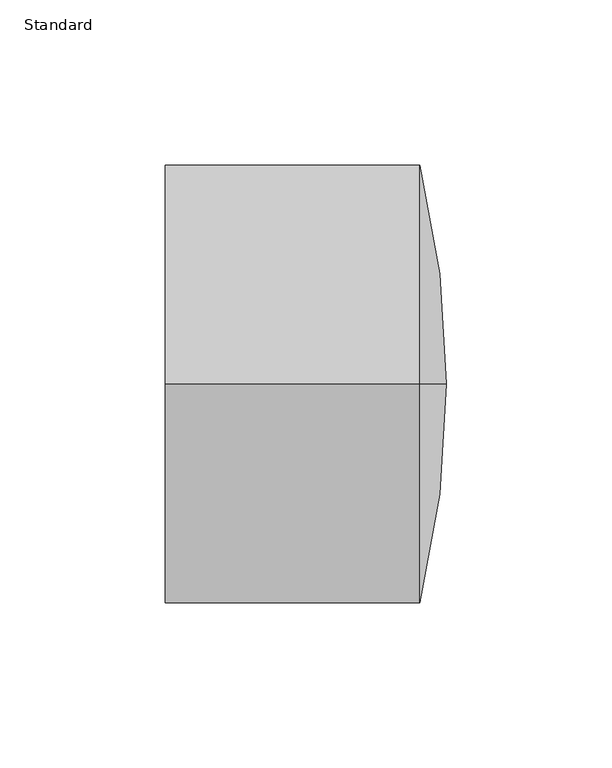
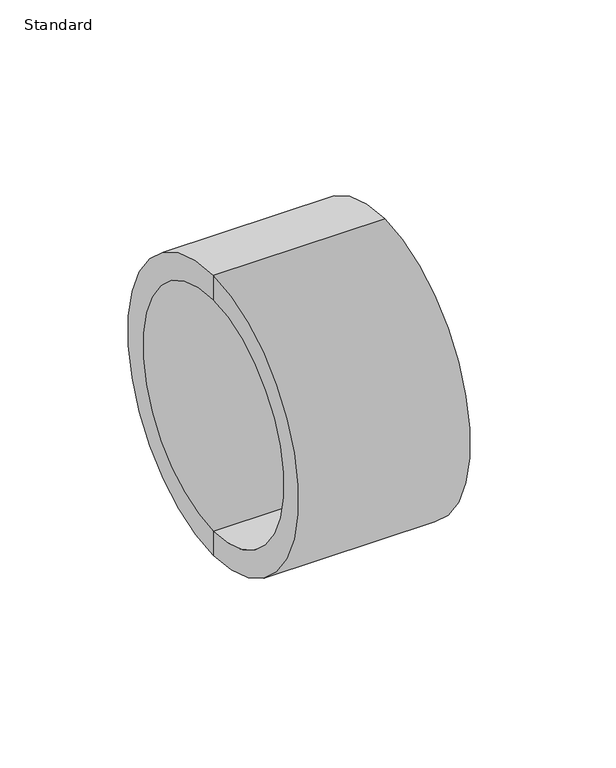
"""IFC4 building model written with IfcOpenShell, lengths in millimetres: pipe fitting geometry, Durapipe_PipeFitting_PVC_Cap : Standard."""

from ifc_helpers import new_model, si_unit, point, frame, origin, place, context, project, spatial, polyline, circle_curve, ellipse_curve, trimmed, source, transform, mapped, element, save
from ifc_brep_helpers import plane_surface, cylinder_surface, revolved_surface, advanced_brep


def standard_ecdbaece(model_context):
    return source(origin(), model_context, "Body", "AdvancedBrep", [
        advanced_brep(
        [(0.0, 0.0, 0.0), (0.0, 0.0, 55.0), (0.0, 0.0, -55.0), (16.0, 0.0, -66.5), (16.0, 0.0, 66.5), (24.0, 0.0, 0.0), (-61.0, 0.0, -66.5), (-61.0, 0.0, 66.5), (-61.0, 0.0, -55.0), (-61.0, 0.0, 55.0)],
        [
            (0, 1),
            (1, 2, circle_curve(frame((0.0, 0.0, 0.0), z_axis=(-1.0, 0.0, 0.0), x_axis=(0.0, 0.0, 1.0)), 55.0)),
            (2, 0),
            (2, 1, circle_curve(frame((0.0, 0.0, 0.0), z_axis=(-1.0, 0.0, 0.0), x_axis=(0.0, 0.0, 1.0)), 55.0)),
            (3, 4, circle_curve(frame((16.0, 0.0, 0.0), z_axis=(1.0, 0.0, 0.0), x_axis=(0.0, 0.0, 1.0)), 66.5)),
            (4, 5, circle_curve(frame((-247.0438269, 0.0, 1.1244268), z_axis=(0.0, 1.0, 0.0), x_axis=(1.0, 0.0, 0.0)), 271.0461592)),
            (5, 3, circle_curve(frame((-247.0438269, 0.0, -1.1244268), z_axis=(0.0, 1.0, 0.0), x_axis=(1.0, 0.0, 0.0)), 271.0461592)),
            (4, 3, circle_curve(frame((16.0, 0.0, 0.0), z_axis=(1.0, 0.0, 0.0), x_axis=(0.0, 0.0, 1.0)), 66.5)),
            (6, 7, circle_curve(frame((-61.0, 0.0, 0.0), z_axis=(1.0, 0.0, 0.0), x_axis=(0.0, 0.0, 1.0)), 66.5)),
            (7, 4),
            (3, 6),
            (7, 6, circle_curve(frame((-61.0, 0.0, 0.0), z_axis=(1.0, 0.0, 0.0), x_axis=(0.0, 0.0, 1.0)), 66.5)),
            (8, 9, circle_curve(frame((-61.0, 0.0, 0.0), z_axis=(1.0, 0.0, 0.0), x_axis=(0.0, 0.0, 1.0)), 55.0)),
            (9, 7),
            (6, 8),
            (9, 8, circle_curve(frame((-61.0, 0.0, 0.0), z_axis=(1.0, 0.0, 0.0), x_axis=(0.0, 0.0, 1.0)), 55.0)),
            (1, 9),
            (8, 2),
        ],
        [
            plane_surface(frame((0.0, 0.0, 0.0), z_axis=(-1.0, 0.0, 0.0), x_axis=(0.0, 0.0, 1.0))),
            revolved_surface(trimmed(ellipse_curve(frame((-247.0438269, 0.0, 1.1244268), z_axis=(0.0, -1.0, 0.0), x_axis=(1.0, 0.0, 0.0)), 271.0461592, 271.0461592), [point((24.0, 0.0, 0.0))], [point((16.0, 0.0, 66.5))], True, "CARTESIAN"), (-1560.1299635, 0.0, 0.0), (-1.0, 0.0, 0.0)),
            cylinder_surface(frame((-1560.1299635, 0.0, 0.0), z_axis=(-1.0, 0.0, 0.0), x_axis=(0.0, 0.0, 1.0)), 66.5),
            plane_surface(frame((-61.0, 0.0, 0.0), z_axis=(-1.0, 0.0, 0.0), x_axis=(0.0, 0.0, 1.0))),
            revolved_surface(polyline([(-61.0, 0.0, 55.0), (0.0, 0.0, 55.0)]), (-1560.1299635, 0.0, 0.0), (-1.0, 0.0, 0.0)),
        ],
        [
            (0, [[1, 2, 3]]),
            (0, [[-3, 4, -1]]),
            (1, [[5, 6, 7]]),
            (1, [[8, -7, -6]]),
            (2, [[9, 10, -5, 11]]),
            (2, [[12, -11, -8, -10]]),
            (3, [[13, 14, -9, 15]]),
            (3, [[16, -15, -12, -14]]),
            (4, [[-2, 17, -13, 18]]),
            (4, [[-4, -18, -16, -17]]),
        ],
    ),
    ])


if __name__ == "__main__":
    model = new_model("IFC4")
    model_context = context("Model", 3, world=origin())
    ifc_project = project(units=[si_unit("LENGTHUNIT", "METRE", prefix="MILLI")], contexts=[model_context])
    site = spatial("IfcSite", under=ifc_project)
    building = spatial("IfcBuilding", under=site)
    placement = place(None, origin())
    standard_shape = standard_ecdbaece(model_context)
    element("IfcPipeFitting", 1, ObjectType="Durapipe_PipeFitting_PVC_Cap : Standard", at=placement, inside=building, context=model_context, shape_type="MappedRepresentation", body=[
        mapped(standard_shape, transform((0.0, 0.0, 0.0), x_axis=(1.0, 0.0, 0.0), y_axis=(0.0, 1.0, 0.0), z_axis=(0.0, 0.0, 1.0))),
    ])
    save(model, "model.ifc")
